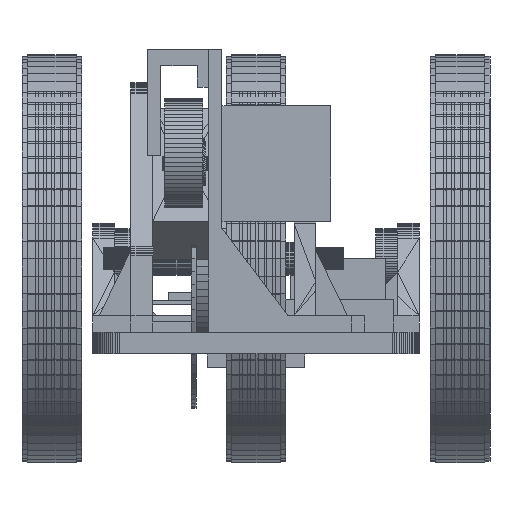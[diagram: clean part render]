
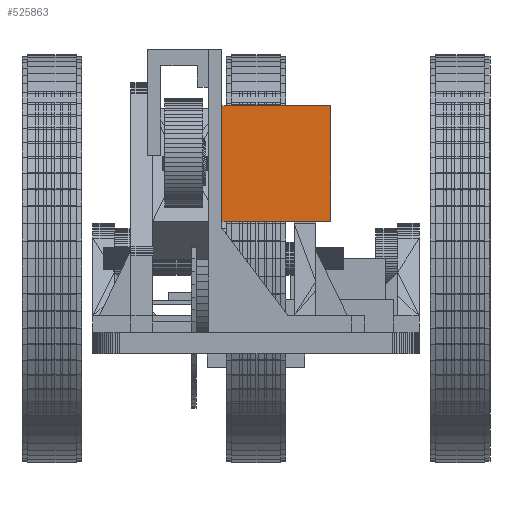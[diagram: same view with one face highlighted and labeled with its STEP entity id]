
A CAD part, left-side view. The second image highlights one B-rep face of the part: STEP entity #525863.
In plain terms, the highlighted planar face has unit normal (-1, 0, 0).
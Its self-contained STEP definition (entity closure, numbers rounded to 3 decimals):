
#522867 = PLANE('',#522868);
#522868 = AXIS2_PLACEMENT_3D('',#522869,#522870,#522871);
#522869 = CARTESIAN_POINT('',(-157.15,12.5,88.85));
#522870 = DIRECTION('',(-0.,1.,0.));
#522871 = DIRECTION('',(0.,0.,1.));
#525605 = EDGE_CURVE('',#525606,#525608,#525610,.T.);
#525606 = VERTEX_POINT('',#525607);
#525607 = CARTESIAN_POINT('',(-157.15,12.5,88.85));
#525608 = VERTEX_POINT('',#525609);
#525609 = CARTESIAN_POINT('',(-157.15,12.5,131.15));
#525610 = SURFACE_CURVE('',#525611,(#525615,#525622),.PCURVE_S1.);
#525611 = LINE('',#525612,#525613);
#525612 = CARTESIAN_POINT('',(-157.15,12.5,88.85));
#525613 = VECTOR('',#525614,1.);
#525614 = DIRECTION('',(0.,0.,1.));
#525615 = PCURVE('',#522867,#525616);
#525616 = DEFINITIONAL_REPRESENTATION('',(#525617),#525621);
#525617 = LINE('',#525618,#525619);
#525618 = CARTESIAN_POINT('',(0.,0.));
#525619 = VECTOR('',#525620,1.);
#525620 = DIRECTION('',(1.,0.));
#525621 = ( GEOMETRIC_REPRESENTATION_CONTEXT(2) 
PARAMETRIC_REPRESENTATION_CONTEXT() REPRESENTATION_CONTEXT('2D SPACE',''
  ) );
#525622 = PCURVE('',#525623,#525628);
#525623 = PLANE('',#525624);
#525624 = AXIS2_PLACEMENT_3D('',#525625,#525626,#525627);
#525625 = CARTESIAN_POINT('',(-157.15,-27.5,88.85));
#525626 = DIRECTION('',(-1.,-0.,-0.));
#525627 = DIRECTION('',(0.,0.,-1.));
#525628 = DEFINITIONAL_REPRESENTATION('',(#525629),#525633);
#525629 = LINE('',#525630,#525631);
#525630 = CARTESIAN_POINT('',(0.,-40.));
#525631 = VECTOR('',#525632,1.);
#525632 = DIRECTION('',(-1.,0.));
#525633 = ( GEOMETRIC_REPRESENTATION_CONTEXT(2) 
PARAMETRIC_REPRESENTATION_CONTEXT() REPRESENTATION_CONTEXT('2D SPACE',''
  ) );
#525651 = PLANE('',#525652);
#525652 = AXIS2_PLACEMENT_3D('',#525653,#525654,#525655);
#525653 = CARTESIAN_POINT('',(-157.15,12.5,131.15));
#525654 = DIRECTION('',(-0.,-0.,1.));
#525655 = DIRECTION('',(1.,0.,0.));
#525705 = PLANE('',#525706);
#525706 = AXIS2_PLACEMENT_3D('',#525707,#525708,#525709);
#525707 = CARTESIAN_POINT('',(-157.15,-27.5,88.85));
#525708 = DIRECTION('',(-0.,-0.,-1.));
#525709 = DIRECTION('',(-1.,0.,0.));
#525723 = VERTEX_POINT('',#525724);
#525724 = CARTESIAN_POINT('',(-157.15,-27.5,131.15));
#525731 = PLANE('',#525732);
#525732 = AXIS2_PLACEMENT_3D('',#525733,#525734,#525735);
#525733 = CARTESIAN_POINT('',(-157.15,-27.5,88.85));
#525734 = DIRECTION('',(0.,-1.,0.));
#525735 = DIRECTION('',(0.,-0.,-1.));
#525750 = EDGE_CURVE('',#525723,#525751,#525753,.T.);
#525751 = VERTEX_POINT('',#525752);
#525752 = CARTESIAN_POINT('',(-157.15,-27.5,88.85));
#525753 = SURFACE_CURVE('',#525754,(#525758,#525765),.PCURVE_S1.);
#525754 = LINE('',#525755,#525756);
#525755 = CARTESIAN_POINT('',(-157.15,-27.5,131.15));
#525756 = VECTOR('',#525757,1.);
#525757 = DIRECTION('',(0.,0.,-1.));
#525758 = PCURVE('',#525731,#525759);
#525759 = DEFINITIONAL_REPRESENTATION('',(#525760),#525764);
#525760 = LINE('',#525761,#525762);
#525761 = CARTESIAN_POINT('',(-42.3,0.));
#525762 = VECTOR('',#525763,1.);
#525763 = DIRECTION('',(1.,0.));
#525764 = ( GEOMETRIC_REPRESENTATION_CONTEXT(2) 
PARAMETRIC_REPRESENTATION_CONTEXT() REPRESENTATION_CONTEXT('2D SPACE',''
  ) );
#525765 = PCURVE('',#525623,#525766);
#525766 = DEFINITIONAL_REPRESENTATION('',(#525767),#525771);
#525767 = LINE('',#525768,#525769);
#525768 = CARTESIAN_POINT('',(-42.3,0.));
#525769 = VECTOR('',#525770,1.);
#525770 = DIRECTION('',(1.,0.));
#525771 = ( GEOMETRIC_REPRESENTATION_CONTEXT(2) 
PARAMETRIC_REPRESENTATION_CONTEXT() REPRESENTATION_CONTEXT('2D SPACE',''
  ) );
#525863 = ADVANCED_FACE('',(#525864),#525623,.T.);
#525864 = FACE_BOUND('',#525865,.T.);
#525865 = EDGE_LOOP('',(#525866,#525867,#525888,#525889));
#525866 = ORIENTED_EDGE('',*,*,#525605,.F.);
#525867 = ORIENTED_EDGE('',*,*,#525868,.T.);
#525868 = EDGE_CURVE('',#525606,#525751,#525869,.T.);
#525869 = SURFACE_CURVE('',#525870,(#525874,#525881),.PCURVE_S1.);
#525870 = LINE('',#525871,#525872);
#525871 = CARTESIAN_POINT('',(-157.15,12.5,88.85));
#525872 = VECTOR('',#525873,1.);
#525873 = DIRECTION('',(0.,-1.,0.));
#525874 = PCURVE('',#525623,#525875);
#525875 = DEFINITIONAL_REPRESENTATION('',(#525876),#525880);
#525876 = LINE('',#525877,#525878);
#525877 = CARTESIAN_POINT('',(0.,-40.));
#525878 = VECTOR('',#525879,1.);
#525879 = DIRECTION('',(0.,1.));
#525880 = ( GEOMETRIC_REPRESENTATION_CONTEXT(2) 
PARAMETRIC_REPRESENTATION_CONTEXT() REPRESENTATION_CONTEXT('2D SPACE',''
  ) );
#525881 = PCURVE('',#525705,#525882);
#525882 = DEFINITIONAL_REPRESENTATION('',(#525883),#525887);
#525883 = LINE('',#525884,#525885);
#525884 = CARTESIAN_POINT('',(0.,40.));
#525885 = VECTOR('',#525886,1.);
#525886 = DIRECTION('',(0.,-1.));
#525887 = ( GEOMETRIC_REPRESENTATION_CONTEXT(2) 
PARAMETRIC_REPRESENTATION_CONTEXT() REPRESENTATION_CONTEXT('2D SPACE',''
  ) );
#525888 = ORIENTED_EDGE('',*,*,#525750,.F.);
#525889 = ORIENTED_EDGE('',*,*,#525890,.T.);
#525890 = EDGE_CURVE('',#525723,#525608,#525891,.T.);
#525891 = SURFACE_CURVE('',#525892,(#525896,#525903),.PCURVE_S1.);
#525892 = LINE('',#525893,#525894);
#525893 = CARTESIAN_POINT('',(-157.15,-27.5,131.15));
#525894 = VECTOR('',#525895,1.);
#525895 = DIRECTION('',(0.,1.,0.));
#525896 = PCURVE('',#525623,#525897);
#525897 = DEFINITIONAL_REPRESENTATION('',(#525898),#525902);
#525898 = LINE('',#525899,#525900);
#525899 = CARTESIAN_POINT('',(-42.3,0.));
#525900 = VECTOR('',#525901,1.);
#525901 = DIRECTION('',(0.,-1.));
#525902 = ( GEOMETRIC_REPRESENTATION_CONTEXT(2) 
PARAMETRIC_REPRESENTATION_CONTEXT() REPRESENTATION_CONTEXT('2D SPACE',''
  ) );
#525903 = PCURVE('',#525651,#525904);
#525904 = DEFINITIONAL_REPRESENTATION('',(#525905),#525909);
#525905 = LINE('',#525906,#525907);
#525906 = CARTESIAN_POINT('',(0.,-40.));
#525907 = VECTOR('',#525908,1.);
#525908 = DIRECTION('',(0.,1.));
#525909 = ( GEOMETRIC_REPRESENTATION_CONTEXT(2) 
PARAMETRIC_REPRESENTATION_CONTEXT() REPRESENTATION_CONTEXT('2D SPACE',''
  ) );
